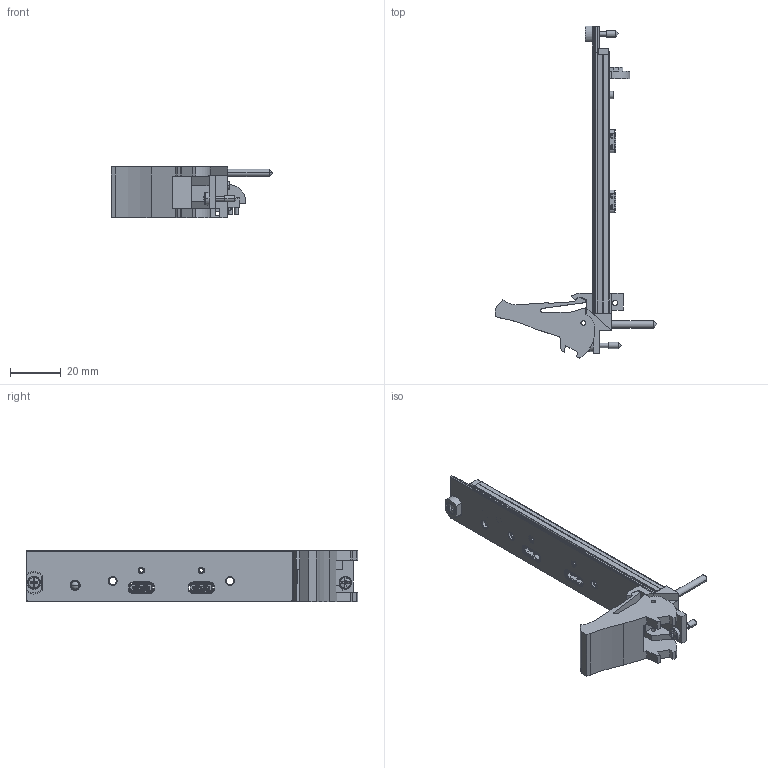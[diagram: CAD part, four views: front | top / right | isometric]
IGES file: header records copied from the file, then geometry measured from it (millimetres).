
Start section:  PTC IGES file: cca_pxie-8301.igs
Global section: file name: cca_pxie-8301.igs; native system: Creo Parametric by PTC Inc.; preprocessor: 2015380; author: gvillanu; organization: Unknown; date: 20170915.114152; units: inch
Bounding box: 63.53 x 130.5 x 20.26 mm (x, y, z)
Surface area: 19917.6 mm2 (no closed solid volume)
Topology: 0 solids, 0 shells, 1414 faces, 8977 edges, 8971 vertices
Faces by surface type: bspline 897, revolution 517
